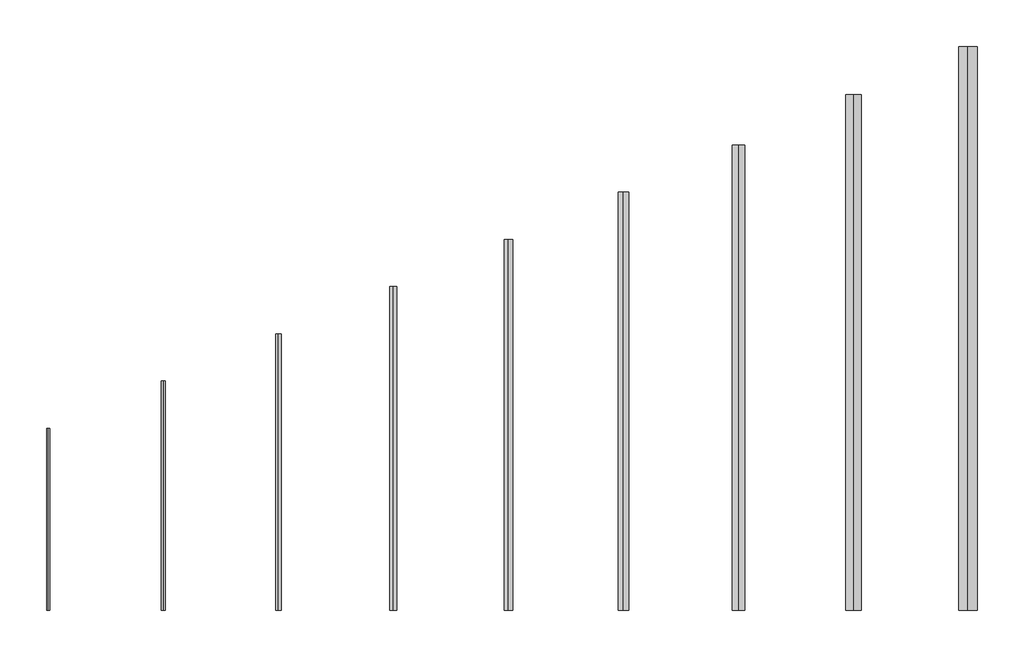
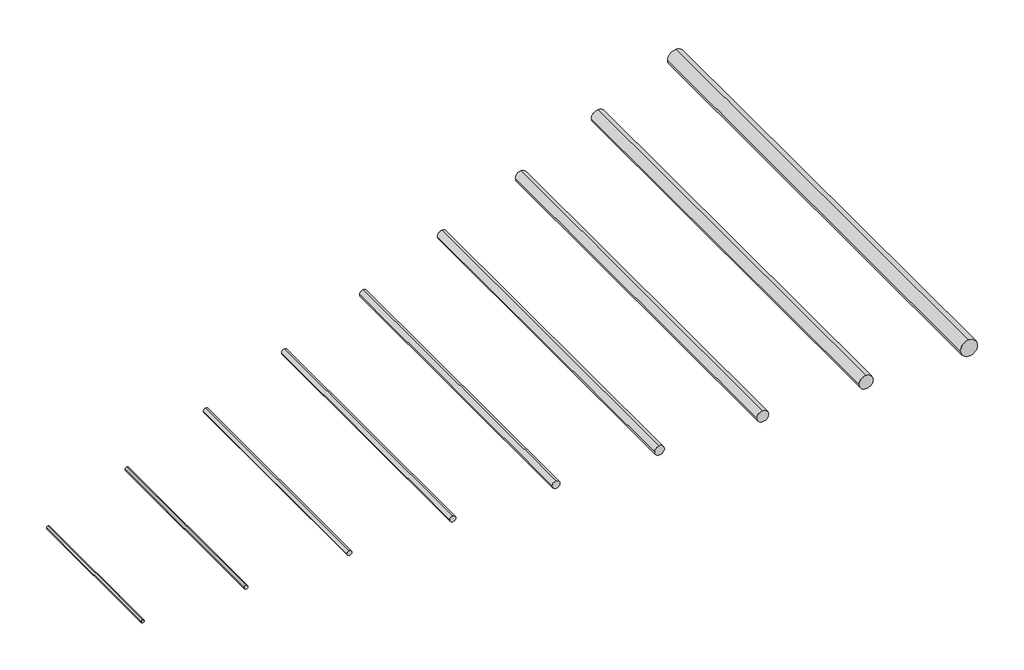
# One storey, incomplete: 9 pipe segments.
"""IFC4 building model written with IfcOpenShell, lengths in millimetres."""

from ifc_helpers import new_model, si_unit, point, frame, frame_2d, origin, place, context, project, spatial, circle_curve, trimmed, segment, composite_curve, outline, extrude, element, save

model = new_model("IFC4")

# Units and contexts
model_context = context("Model", 3, world=origin())
ifc_project = project(units=[si_unit("LENGTHUNIT", "METRE", prefix="MILLI")], contexts=[model_context])

# Site, building, storey
site = spatial("IfcSite", under=ifc_project)
building = spatial("IfcBuilding", under=site)
storey = spatial("IfcBuildingStorey", under=building, Name="Этаж 01", Elevation=0.0)

# Pipe segments
placement = place(None, origin())
element("IfcPipeSegment", 1, ObjectType="VALTEC_R/FB/PP-R PN20-VTp.700.FB20", at=placement, inside=storey, context=model_context, shape_type="SweptSolid", body=[
    extrude(outline(composite_curve([segment(trimmed(circle_curve(frame_2d((0.0, 19.704222)), 10.0), [point((0.0, 29.704222))], [point((10.0, 19.704222))], False, "CARTESIAN"), True, "CONTINUOUS"), segment(trimmed(circle_curve(frame_2d((0.0, 19.704222)), 10.0), [point((10.0, 19.704222))], [point((0.0, 9.704222))], False, "CARTESIAN"), True, "CONTINUOUS"), segment(trimmed(circle_curve(frame_2d((0.0, 19.704222)), 10.0), [point((0.0, 9.704222))], [point((-10.0, 19.704222))], False, "CARTESIAN"), True, "CONTINUOUS"), segment(trimmed(circle_curve(frame_2d((0.0, 19.704222)), 10.0), [point((-10.0, 19.704222))], [point((0.0, 29.704222))], False, "CARTESIAN"), True, "CONTINUOUS")], self_intersect=False)), frame((0.0, 0.0, 0.0), z_axis=(0.0, 1.0, 0.0), x_axis=(0.0, 0.0, 1.0)), (0.0, 0.0, 1.0), 1060.0),
])
element("IfcPipeSegment", 2, ObjectType="VALTEC_R/FB/PP-R PN20-VTp.700.FB20", at=placement, inside=storey, context=model_context, shape_type="SweptSolid", body=[
    extrude(outline(composite_curve([segment(trimmed(circle_curve(frame_2d((0.0, 688.2756506)), 12.5), [point((0.0, 675.7756506))], [point((-12.5, 688.2756506))], False, "CARTESIAN"), True, "CONTINUOUS"), segment(trimmed(circle_curve(frame_2d((0.0, 688.2756506)), 12.5), [point((-12.5, 688.2756506))], [point((0.0, 700.7756506))], False, "CARTESIAN"), True, "CONTINUOUS"), segment(trimmed(circle_curve(frame_2d((0.0, 688.2756506)), 12.5), [point((0.0, 700.7756506))], [point((12.5, 688.2756506))], False, "CARTESIAN"), True, "CONTINUOUS"), segment(trimmed(circle_curve(frame_2d((0.0, 688.2756506)), 12.5), [point((12.5, 688.2756506))], [point((0.0, 675.7756506))], False, "CARTESIAN"), True, "CONTINUOUS")], self_intersect=False)), frame((0.0, 0.0, 0.0), z_axis=(0.0, 1.0, 0.0), x_axis=(0.0, 0.0, 1.0)), (0.0, 0.0, 1.0), 1334.5034014),
])
element("IfcPipeSegment", 3, ObjectType="VALTEC_R/FB/PP-R PN20-VTp.700.FB20", at=placement, inside=storey, context=model_context, shape_type="SweptSolid", body=[
    extrude(outline(composite_curve([segment(trimmed(circle_curve(frame_2d((0.0, 1356.8470791)), 16.0), [point((0.0, 1372.8470791))], [point((16.0, 1356.8470791))], False, "CARTESIAN"), True, "CONTINUOUS"), segment(trimmed(circle_curve(frame_2d((0.0, 1356.8470791)), 16.0), [point((16.0, 1356.8470791))], [point((0.0, 1340.8470791))], False, "CARTESIAN"), True, "CONTINUOUS"), segment(trimmed(circle_curve(frame_2d((0.0, 1356.8470791)), 16.0), [point((0.0, 1340.8470791))], [point((-16.0, 1356.8470791))], False, "CARTESIAN"), True, "CONTINUOUS"), segment(trimmed(circle_curve(frame_2d((0.0, 1356.8470791)), 16.0), [point((-16.0, 1356.8470791))], [point((0.0, 1372.8470791))], False, "CARTESIAN"), True, "CONTINUOUS")], self_intersect=False)), frame((0.0, 0.0, 0.0), z_axis=(0.0, 1.0, 0.0), x_axis=(0.0, 0.0, 1.0)), (0.0, 0.0, 1.0), 1609.0068027),
])
element("IfcPipeSegment", 4, ObjectType="VALTEC_R/FB/PP-R PN20-VTp.700.FB20", at=placement, inside=storey, context=model_context, shape_type="SweptSolid", body=[
    extrude(outline(composite_curve([segment(trimmed(circle_curve(frame_2d((0.0, 2025.4185077)), 20.0), [point((0.0, 2045.4185077))], [point((20.0, 2025.4185077))], False, "CARTESIAN"), True, "CONTINUOUS"), segment(trimmed(circle_curve(frame_2d((0.0, 2025.4185077)), 20.0), [point((20.0, 2025.4185077))], [point((0.0, 2005.4185077))], False, "CARTESIAN"), True, "CONTINUOUS"), segment(trimmed(circle_curve(frame_2d((0.0, 2025.4185077)), 20.0), [point((0.0, 2005.4185077))], [point((-20.0, 2025.4185077))], False, "CARTESIAN"), True, "CONTINUOUS"), segment(trimmed(circle_curve(frame_2d((0.0, 2025.4185077)), 20.0), [point((-20.0, 2025.4185077))], [point((0.0, 2045.4185077))], False, "CARTESIAN"), True, "CONTINUOUS")], self_intersect=False)), frame((0.0, 0.0, 0.0), z_axis=(0.0, 1.0, 0.0), x_axis=(0.0, 0.0, 1.0)), (0.0, 0.0, 1.0), 1883.5102041),
])
element("IfcPipeSegment", 5, ObjectType="VALTEC_R/FB/PP-R PN20-VTp.700.FB20", at=placement, inside=storey, context=model_context, shape_type="SweptSolid", body=[
    extrude(outline(composite_curve([segment(trimmed(circle_curve(frame_2d((0.0, 2693.9899363)), 25.0), [point((0.0, 2718.9899363))], [point((25.0, 2693.9899363))], False, "CARTESIAN"), True, "CONTINUOUS"), segment(trimmed(circle_curve(frame_2d((0.0, 2693.9899363)), 25.0), [point((25.0, 2693.9899363))], [point((0.0, 2668.9899363))], False, "CARTESIAN"), True, "CONTINUOUS"), segment(trimmed(circle_curve(frame_2d((0.0, 2693.9899363)), 25.0), [point((0.0, 2668.9899363))], [point((-25.0, 2693.9899363))], False, "CARTESIAN"), True, "CONTINUOUS"), segment(trimmed(circle_curve(frame_2d((0.0, 2693.9899363)), 25.0), [point((-25.0, 2693.9899363))], [point((0.0, 2718.9899363))], False, "CARTESIAN"), True, "CONTINUOUS")], self_intersect=False)), frame((0.0, 0.0, 0.0), z_axis=(0.0, 1.0, 0.0), x_axis=(0.0, 0.0, 1.0)), (0.0, 0.0, 1.0), 2158.0136054),
])
element("IfcPipeSegment", 6, ObjectType="VALTEC_R/FB/PP-R PN20-VTp.700.FB20", at=placement, inside=storey, context=model_context, shape_type="SweptSolid", body=[
    extrude(outline(composite_curve([segment(trimmed(circle_curve(frame_2d((0.0, 3362.5613648)), 31.5), [point((0.0, 3394.0613648))], [point((31.5, 3362.5613648))], False, "CARTESIAN"), True, "CONTINUOUS"), segment(trimmed(circle_curve(frame_2d((0.0, 3362.5613648)), 31.5), [point((31.5, 3362.5613648))], [point((0.0, 3331.0613648))], False, "CARTESIAN"), True, "CONTINUOUS"), segment(trimmed(circle_curve(frame_2d((0.0, 3362.5613648)), 31.5), [point((0.0, 3331.0613648))], [point((-31.5, 3362.5613648))], False, "CARTESIAN"), True, "CONTINUOUS"), segment(trimmed(circle_curve(frame_2d((0.0, 3362.5613648)), 31.5), [point((-31.5, 3362.5613648))], [point((0.0, 3394.0613648))], False, "CARTESIAN"), True, "CONTINUOUS")], self_intersect=False)), frame((0.0, 0.0, 0.0), z_axis=(0.0, 1.0, 0.0), x_axis=(0.0, 0.0, 1.0)), (0.0, 0.0, 1.0), 2432.5170068),
])
element("IfcPipeSegment", 7, ObjectType="VALTEC_R/FB/PP-R PN20-VTp.700.FB20", at=placement, inside=storey, context=model_context, shape_type="SweptSolid", body=[
    extrude(outline(composite_curve([segment(trimmed(circle_curve(frame_2d((0.0, 4031.1327934)), 37.5), [point((0.0, 4068.6327934))], [point((37.5, 4031.1327934))], False, "CARTESIAN"), True, "CONTINUOUS"), segment(trimmed(circle_curve(frame_2d((0.0, 4031.1327934)), 37.5), [point((37.5, 4031.1327934))], [point((0.0, 3993.6327934))], False, "CARTESIAN"), True, "CONTINUOUS"), segment(trimmed(circle_curve(frame_2d((0.0, 4031.1327934)), 37.5), [point((0.0, 3993.6327934))], [point((-37.5, 4031.1327934))], False, "CARTESIAN"), True, "CONTINUOUS"), segment(trimmed(circle_curve(frame_2d((0.0, 4031.1327934)), 37.5), [point((-37.5, 4031.1327934))], [point((0.0, 4068.6327934))], False, "CARTESIAN"), True, "CONTINUOUS")], self_intersect=False)), frame((0.0, 0.0, 0.0), z_axis=(0.0, 1.0, 0.0), x_axis=(0.0, 0.0, 1.0)), (0.0, 0.0, 1.0), 2707.0204082),
])
element("IfcPipeSegment", 8, ObjectType="VALTEC_R/FB/PP-R PN20-VTp.700.FB20", at=placement, inside=storey, context=model_context, shape_type="SweptSolid", body=[
    extrude(outline(composite_curve([segment(trimmed(circle_curve(frame_2d((0.0, 4699.704222)), 45.0), [point((0.0, 4744.704222))], [point((45.0, 4699.704222))], False, "CARTESIAN"), True, "CONTINUOUS"), segment(trimmed(circle_curve(frame_2d((0.0, 4699.704222)), 45.0), [point((45.0, 4699.704222))], [point((0.0, 4654.704222))], False, "CARTESIAN"), True, "CONTINUOUS"), segment(trimmed(circle_curve(frame_2d((0.0, 4699.704222)), 45.0), [point((0.0, 4654.704222))], [point((-45.0, 4699.704222))], False, "CARTESIAN"), True, "CONTINUOUS"), segment(trimmed(circle_curve(frame_2d((0.0, 4699.704222)), 45.0), [point((-45.0, 4699.704222))], [point((0.0, 4744.704222))], False, "CARTESIAN"), True, "CONTINUOUS")], self_intersect=False)), frame((0.0, 0.0, 0.0), z_axis=(0.0, 1.0, 0.0), x_axis=(0.0, 0.0, 1.0)), (0.0, 0.0, 1.0), 3000.0),
])
element("IfcPipeSegment", 9, ObjectType="VALTEC_R/FB/PP-R PN20-VTp.700.FB20", at=placement, inside=storey, context=model_context, shape_type="SweptSolid", body=[
    extrude(outline(composite_curve([segment(trimmed(circle_curve(frame_2d((0.0, 5364.7756506)), 55.0), [point((0.0, 5419.7756506))], [point((55.0, 5364.7756506))], False, "CARTESIAN"), True, "CONTINUOUS"), segment(trimmed(circle_curve(frame_2d((0.0, 5364.7756506)), 55.0), [point((55.0, 5364.7756506))], [point((0.0, 5309.7756506))], False, "CARTESIAN"), True, "CONTINUOUS"), segment(trimmed(circle_curve(frame_2d((0.0, 5364.7756506)), 55.0), [point((0.0, 5309.7756506))], [point((-55.0, 5364.7756506))], False, "CARTESIAN"), True, "CONTINUOUS"), segment(trimmed(circle_curve(frame_2d((0.0, 5364.7756506)), 55.0), [point((-55.0, 5364.7756506))], [point((0.0, 5419.7756506))], False, "CARTESIAN"), True, "CONTINUOUS")], self_intersect=False)), frame((0.0, 0.0, 0.0), z_axis=(0.0, 1.0, 0.0), x_axis=(0.0, 0.0, 1.0)), (0.0, 0.0, 1.0), 3280.0),
])

save(model, "model.ifc")
